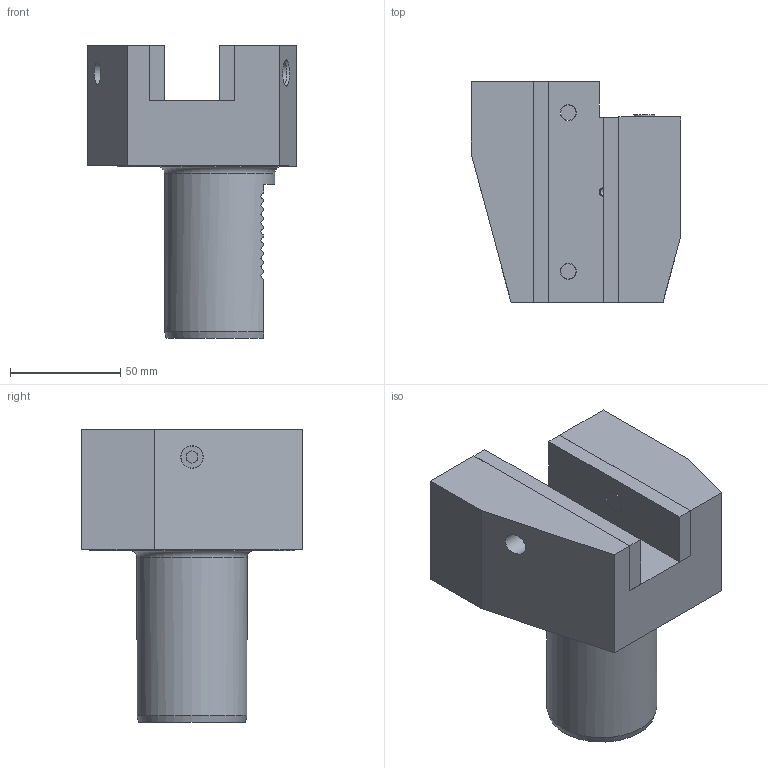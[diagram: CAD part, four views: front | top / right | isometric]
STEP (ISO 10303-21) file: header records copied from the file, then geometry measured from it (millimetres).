
FILE_DESCRIPTION(/* description */ (''),/* implementation_level */ '2;1');
FILE_NAME(/* name */ 'B2-50x32x55.stp',/* time_stamp */ '2025-10-08T14:44:32+03:00',/* author */ ('User'),/* organization */ (''),/* preprocessor_version */ 'ST-DEVELOPER v19.2',/* originating_system */ 'Autodesk Inventor 2024',/* authorisation */ '');
FILE_SCHEMA (('AUTOMOTIVE_DESIGN { 1 0 10303 214 3 1 1 }'));
Length unit declared in the file: millimetre
Products named in the file (1): 11313
Bounding box: 95 x 100 x 133 mm (x, y, z)
Volume: 526103.8 mm3; surface area: 68012.3 mm2
Topology: 7 solids, 8 shells, 161 faces, 388 edges, 257 vertices
Faces by surface type: plane 129, cylinder 23, cone 5, torus 2, bspline 2
Full cylindrical faces by diameter (mm): 3 x1, 5 x2, 7 x2, 7.2 x2, 9.5 x1, 10 x4, 10.2 x4, 14 x1, 50 x1
Entity records: 4914 total; most frequent: CARTESIAN_POINT 991, DIRECTION 805, ORIENTED_EDGE 774, EDGE_CURVE 387, LINE 275, VECTOR 275, AXIS2_PLACEMENT_3D 265, VERTEX_POINT 257
